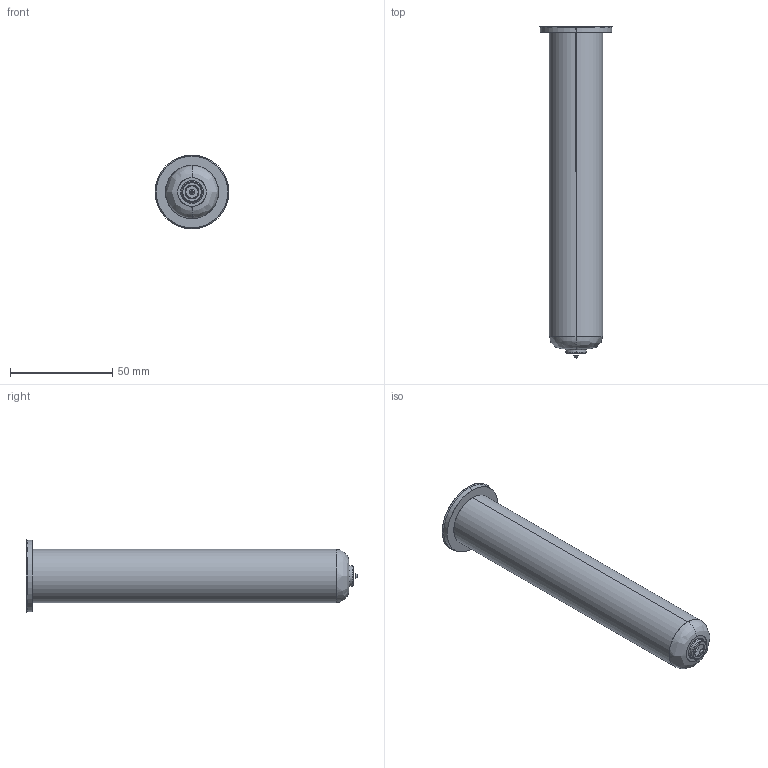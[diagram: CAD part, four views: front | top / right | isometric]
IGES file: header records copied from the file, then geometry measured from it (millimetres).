
Start section: SolidWorks IGES file using analytic representation for surfaces
Global section: file name: C:\Users\luca.EMPAD\Desktop\TEM\Sede UGEP3054-M-A C-159 L-177 Ød-1.0.IGS; native system: SolidWorks 2012; preprocessor: SolidWorks 2012; author: luca; date: 120402.151811; units: millimetre
Bounding box: 36 x 162.4 x 36 mm (x, y, z)
Surface area: 14845.3 mm2 (no closed solid volume)
Topology: 0 solids, 0 shells, 25 faces, 388 edges, 388 vertices
Faces by surface type: revolution 16, bspline 9
